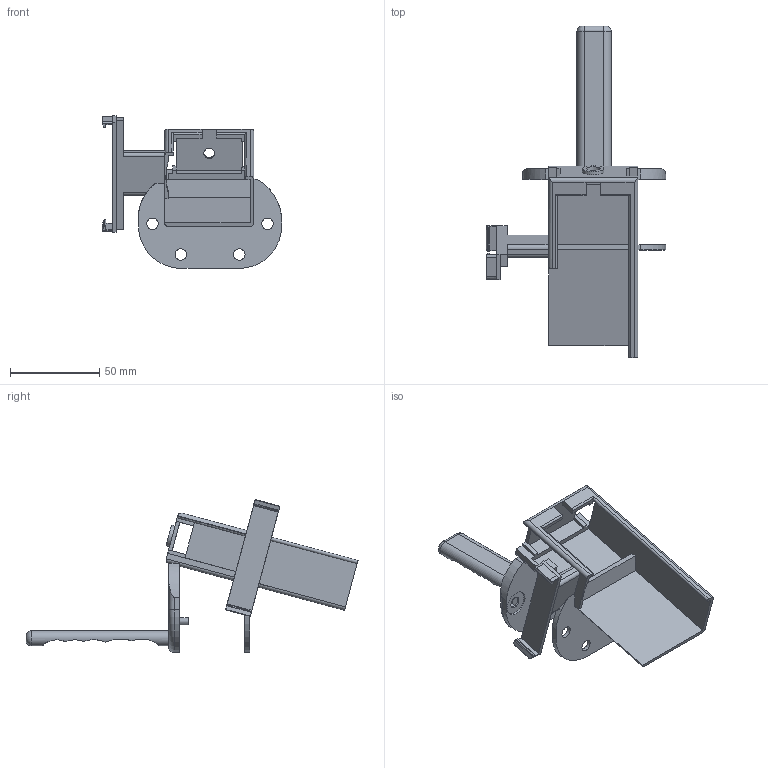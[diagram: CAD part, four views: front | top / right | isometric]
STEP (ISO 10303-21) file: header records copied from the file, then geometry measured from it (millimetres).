
FILE_DESCRIPTION (( 'STEP AP214' ), '1' );
FILE_NAME ('merged-moving-body.step', '2026-11-14T03:53:13', ( '' ), ( '' ), 'SwSTEP 2.0', 'SolidWorks 2024', '' );
FILE_SCHEMA (( 'AUTOMOTIVE_DESIGN' ));
Length unit declared in the file: millimetre
Products named in the file (1): merged-moving-body
Bounding box: 100.51 x 186.03 x 85.69 mm (x, y, z)
Volume: 66770.3 mm3; surface area: 44270.4 mm2
Topology: 1 solids, 1 shells, 220 faces, 606 edges, 397 vertices
Faces by surface type: plane 151, cylinder 65, torus 4
Full cylindrical faces by diameter (mm): 4 x2, 6 x1, 6.4 x8, 8 x1, 12 x1, 14 x6
Entity records: 7115 total; most frequent: CARTESIAN_POINT 1609, ORIENTED_EDGE 1156, DIRECTION 1078, EDGE_CURVE 578, LINE 424, VECTOR 424, VERTEX_POINT 388, AXIS2_PLACEMENT_3D 327
